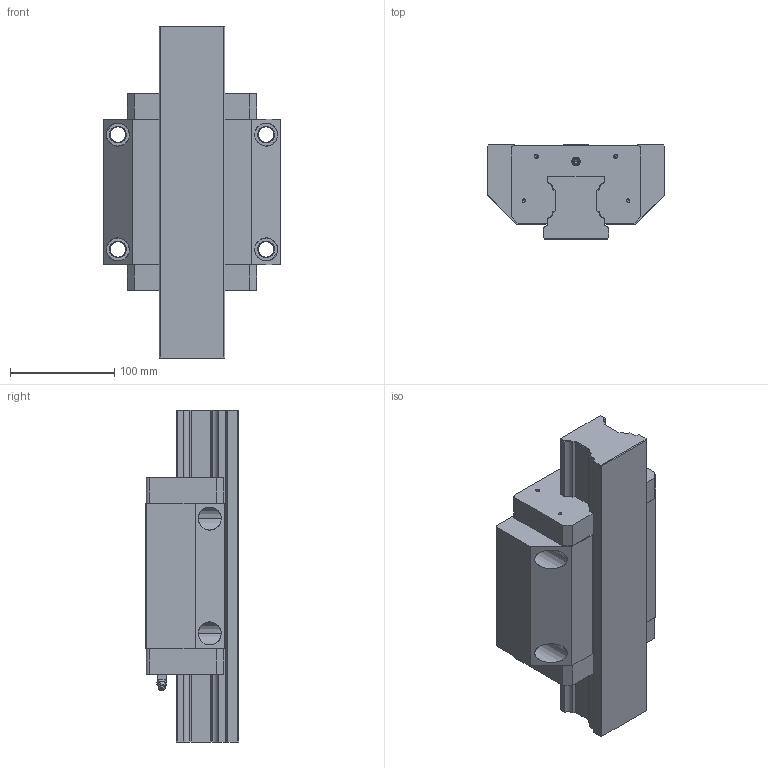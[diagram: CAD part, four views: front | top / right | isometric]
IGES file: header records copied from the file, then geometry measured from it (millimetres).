
Start section: 3D InterOp IGES (v. 2019 1.0.2), Spatial Corp. Copyright (c) 1999-2017.
Global section: file name: R1651_size65.igs; native system: Spatial Corp.; preprocessor: 3D InterOp GENERIC/IGES 3.0; author: Noname; organization: Noname; date: 20220629.124952; units: millimetre
Bounding box: 170 x 90 x 318 mm (x, y, z)
Surface area: 284818.6 mm2 (no closed solid volume)
Topology: 0 solids, 0 shells, 351 faces, 2032 edges, 2008 vertices
Faces by surface type: extrusion 177, revolution 172, bspline 2
